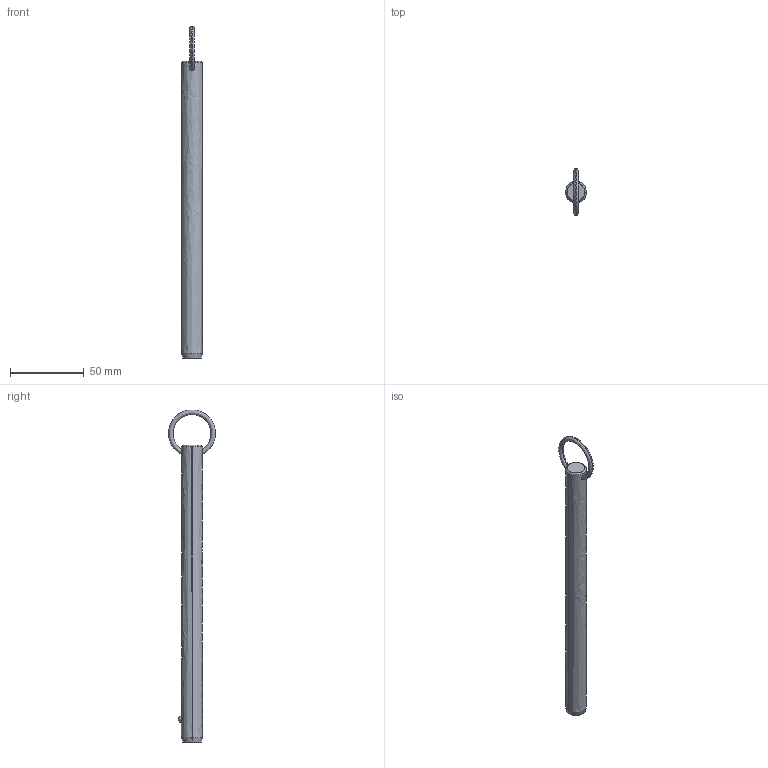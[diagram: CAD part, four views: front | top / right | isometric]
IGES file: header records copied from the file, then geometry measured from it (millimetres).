
Start section: SolidWorks IGES file using analytic representation for surfaces
Global section: file name: C:\Users\liam_\OneDrive\Documents\WORK\Work for WixRoyd\Job Files\J-00019 - Matt Davis CAD Checking\04. CAD Drawings\automotion20190605\P1250.2_v2\P1250.2_v2_20190729_IGES\P1250.056-690.igs; native system: SolidWorks 2017; preprocessor: SolidWorks 2017; author: liam_; date: 190729.232911; units: millimetre
Bounding box: 14.2 x 31.68 x 224.4 mm (x, y, z)
Surface area: 9914.7 mm2 (no closed solid volume)
Topology: 0 solids, 0 shells, 12 faces, 285 edges, 283 vertices
Faces by surface type: revolution 8, bspline 4
